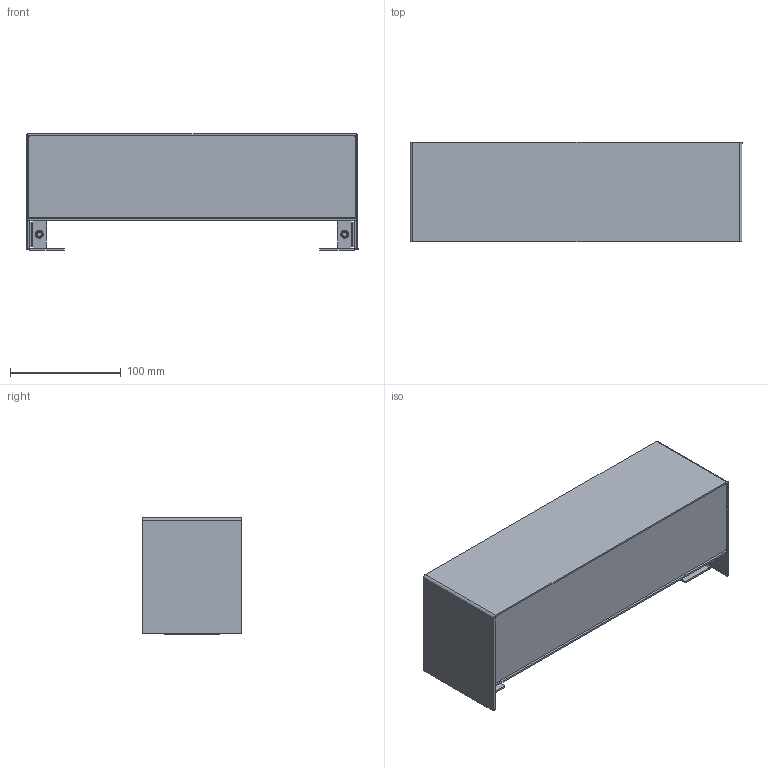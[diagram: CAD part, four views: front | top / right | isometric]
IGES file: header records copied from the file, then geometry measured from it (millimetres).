
Start section: SolidWorks IGES file using analytic representation for surfaces
Global section: file name: C:\Users\tungari.NEMOLIGHTING\Desktop\3D\WALL\3D_VIIVA_3000\DEF\3D_VIIVA_30.IGS; native system: SolidWorks 2016; preprocessor: SolidWorks 2016; author: tungari; date: 180314.162457; units: millimetre
Bounding box: 300 x 90 x 105.5 mm (x, y, z)
Surface area: 253906.9 mm2 (no closed solid volume)
Topology: 0 solids, 0 shells, 294 faces, 2908 edges, 2908 vertices
Faces by surface type: bspline 196, revolution 98
